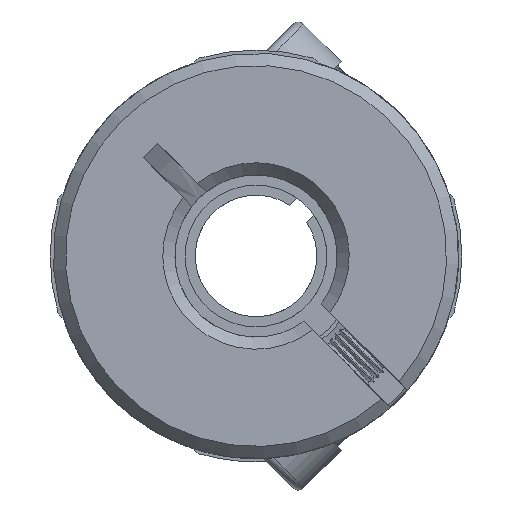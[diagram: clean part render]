
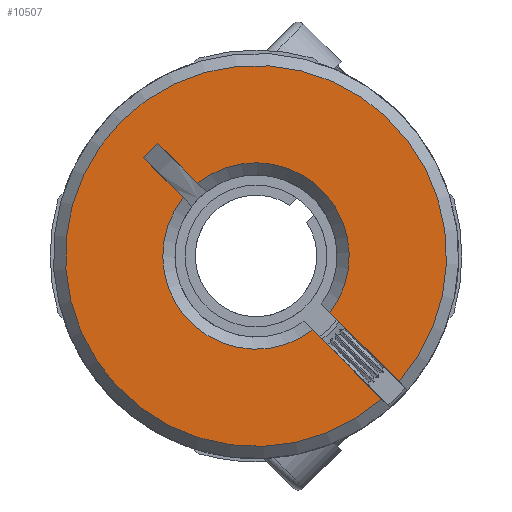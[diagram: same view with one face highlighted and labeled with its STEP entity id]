
A CAD part, front view. The second image highlights one B-rep face of the part: STEP entity #10507.
In plain terms, the highlighted planar face has unit normal (0, -1, 0).
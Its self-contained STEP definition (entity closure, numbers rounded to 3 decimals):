
#339 = VECTOR ( 'NONE', #5080, 1000. ) ;
#537 = ORIENTED_EDGE ( 'NONE', *, *, #3542, .T. ) ;
#659 = VECTOR ( 'NONE', #8732, 1000. ) ;
#663 = EDGE_CURVE ( 'NONE', #8249, #6433, #10586, .T. ) ;
#1740 = CARTESIAN_POINT ( 'NONE',  ( 2.801, -12.6, -3.649 ) ) ;
#2238 = LINE ( 'NONE', #11132, #339 ) ;
#2489 = CARTESIAN_POINT ( 'NONE',  ( -4.842, -12.6, 5.549 ) ) ;
#2738 = VERTEX_POINT ( 'NONE', #2835 ) ;
#2835 = CARTESIAN_POINT ( 'NONE',  ( -5.549, -12.6, 4.842 ) ) ;
#3006 = VECTOR ( 'NONE', #4550, 1000. ) ;
#3199 = AXIS2_PLACEMENT_3D ( 'NONE', #9927, #3885, #10061 ) ;
#3542 = EDGE_CURVE ( 'NONE', #6596, #5270, #6357, .T. ) ;
#3885 = DIRECTION ( 'NONE',  ( 0., -1., 0. ) ) ;
#3890 = CARTESIAN_POINT ( 'NONE',  ( 0., -12.6, 0. ) ) ;
#3973 = ORIENTED_EDGE ( 'NONE', *, *, #4658, .F. ) ;
#4051 = CARTESIAN_POINT ( 'NONE',  ( -3.587, -12.6, 2.88 ) ) ;
#4363 = EDGE_CURVE ( 'NONE', #6596, #6544, #8433, .T. ) ;
#4472 = DIRECTION ( 'NONE',  ( 0.707, 0., -0.707 ) ) ;
#4550 = DIRECTION ( 'NONE',  ( -0.707, 0., -0.707 ) ) ;
#4601 = CARTESIAN_POINT ( 'NONE',  ( 6.209, -12.6, -7.058 ) ) ;
#4658 = EDGE_CURVE ( 'NONE', #12855, #7396, #9251, .T. ) ;
#4731 = EDGE_CURVE ( 'NONE', #12855, #6544, #5241, .T. ) ;
#4735 = ORIENTED_EDGE ( 'NONE', *, *, #12436, .T. ) ;
#4804 = FACE_OUTER_BOUND ( 'NONE', #8276, .T. ) ;
#4942 = DIRECTION ( 'NONE',  ( 0.707, 0., -0.707 ) ) ;
#5080 = DIRECTION ( 'NONE',  ( 0.707, 0., -0.707 ) ) ;
#5241 = CIRCLE ( 'NONE', #3199, 9.4 ) ;
#5270 = VERTEX_POINT ( 'NONE', #4051 ) ;
#5889 = ORIENTED_EDGE ( 'NONE', *, *, #4731, .T. ) ;
#5918 = DIRECTION ( 'NONE',  ( 0.707, 0., -0.707 ) ) ;
#5970 = ORIENTED_EDGE ( 'NONE', *, *, #6915, .F. ) ;
#6160 = AXIS2_PLACEMENT_3D ( 'NONE', #6453, #9417, #4472 ) ;
#6357 = CIRCLE ( 'NONE', #6718, 4.6 ) ;
#6433 = VERTEX_POINT ( 'NONE', #12350 ) ;
#6453 = CARTESIAN_POINT ( 'NONE',  ( 342.528, -12.6, 364.579 ) ) ;
#6461 = DIRECTION ( 'NONE',  ( 0.707, 0., -0.707 ) ) ;
#6541 = CARTESIAN_POINT ( 'NONE',  ( -4.842, -12.6, 5.549 ) ) ;
#6544 = VERTEX_POINT ( 'NONE', #4601 ) ;
#6596 = VERTEX_POINT ( 'NONE', #1740 ) ;
#6718 = AXIS2_PLACEMENT_3D ( 'NONE', #3890, #13038, #4942 ) ;
#6725 = ORIENTED_EDGE ( 'NONE', *, *, #4363, .F. ) ;
#6915 = EDGE_CURVE ( 'NONE', #8249, #2738, #8843, .T. ) ;
#6926 = ORIENTED_EDGE ( 'NONE', *, *, #12306, .F. ) ;
#7068 = ORIENTED_EDGE ( 'NONE', *, *, #663, .T. ) ;
#7396 = VERTEX_POINT ( 'NONE', #13060 ) ;
#8249 = VERTEX_POINT ( 'NONE', #2489 ) ;
#8269 = DIRECTION ( 'NONE',  ( 0.707, 0., -0.707 ) ) ;
#8274 = DIRECTION ( 'NONE',  ( 0., 1., 0. ) ) ;
#8276 = EDGE_LOOP ( 'NONE', ( #7068, #4735, #3973, #5889, #6725, #537, #6926, #5970 ) ) ;
#8433 = LINE ( 'NONE', #11171, #12747 ) ;
#8732 = DIRECTION ( 'NONE',  ( -0.707, 0., 0.707 ) ) ;
#8843 = LINE ( 'NONE', #6541, #3006 ) ;
#9251 = LINE ( 'NONE', #12695, #659 ) ;
#9318 = VECTOR ( 'NONE', #8269, 1000. ) ;
#9387 = CIRCLE ( 'NONE', #9620, 4.6 ) ;
#9417 = DIRECTION ( 'NONE',  ( 0., 1., 0. ) ) ;
#9620 = AXIS2_PLACEMENT_3D ( 'NONE', #12570, #8274, #6461 ) ;
#9927 = CARTESIAN_POINT ( 'NONE',  ( 0., -12.6, 0. ) ) ;
#10024 = CARTESIAN_POINT ( 'NONE',  ( 7.058, -12.6, -6.209 ) ) ;
#10061 = DIRECTION ( 'NONE',  ( 0.707, 0., -0.707 ) ) ;
#10507 = ADVANCED_FACE ( 'NONE', ( #4804 ), #10513, .F. ) ;
#10513 = PLANE ( 'NONE',  #6160 ) ;
#10586 = LINE ( 'NONE', #11534, #9318 ) ;
#11132 = CARTESIAN_POINT ( 'NONE',  ( 4.95, -12.6, -5.657 ) ) ;
#11171 = CARTESIAN_POINT ( 'NONE',  ( 2.372, -12.6, -3.221 ) ) ;
#11534 = CARTESIAN_POINT ( 'NONE',  ( 5.657, -12.6, -4.95 ) ) ;
#12306 = EDGE_CURVE ( 'NONE', #2738, #5270, #2238, .T. ) ;
#12350 = CARTESIAN_POINT ( 'NONE',  ( -2.88, -12.6, 3.587 ) ) ;
#12436 = EDGE_CURVE ( 'NONE', #6433, #7396, #9387, .T. ) ;
#12570 = CARTESIAN_POINT ( 'NONE',  ( 0., -12.6, 0. ) ) ;
#12695 = CARTESIAN_POINT ( 'NONE',  ( 3.221, -12.6, -2.372 ) ) ;
#12747 = VECTOR ( 'NONE', #5918, 1000. ) ;
#12855 = VERTEX_POINT ( 'NONE', #10024 ) ;
#13038 = DIRECTION ( 'NONE',  ( 0., 1., 0. ) ) ;
#13060 = CARTESIAN_POINT ( 'NONE',  ( 3.649, -12.6, -2.801 ) ) ;
